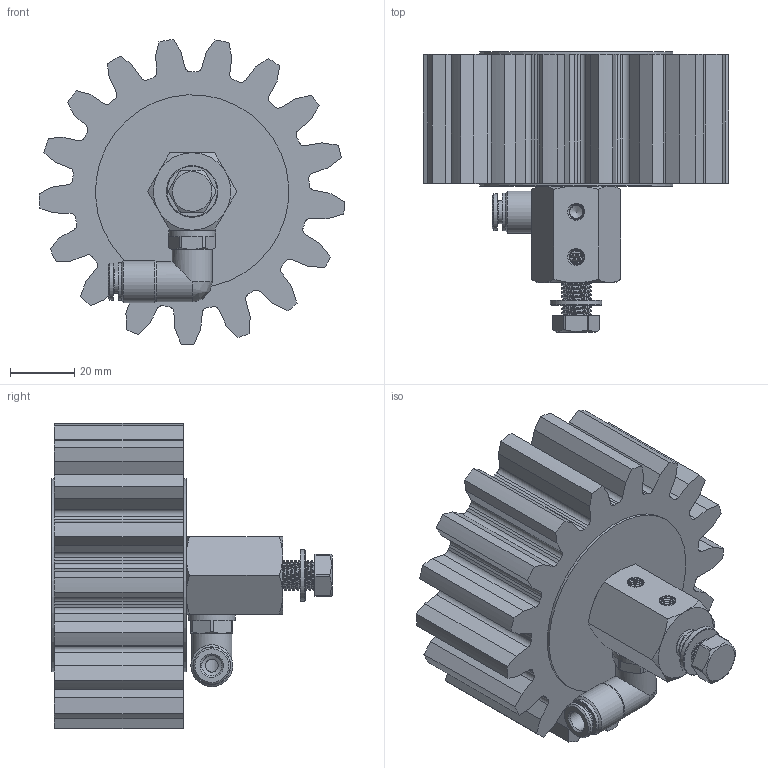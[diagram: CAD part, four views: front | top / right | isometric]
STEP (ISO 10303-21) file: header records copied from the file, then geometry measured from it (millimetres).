
FILE_DESCRIPTION (( 'STEP AP214' ), '1' );
FILE_NAME ('012_13_05_40_17BZ.STEP', '2026-04-08T11:19:36', ( '' ), ( '' ), 'SwSTEP 2.0', 'SolidWorks 2022', '' );
FILE_SCHEMA (( 'AUTOMOTIVE_DESIGN' ));
Length unit declared in the file: millimetre
Products named in the file (13): OR 7.2X1.9_1; RH202242; 12012_06_01_Scheibe-CRS-VA_60.SLDASM; Scheibe_hinten_winklige Achse_groß; DR6-C_HDX_25.07.16_1; 012_06_Senkschraube; U_Scheibe_8,4; RIVOLUZIONE_0_2; 012_13b_02_winklige_Achse_M10_1; Schmierzahnrad_05_40_17G; H202242_HDS022_6_M10X1_08.05.17(1); Schraube_M8_20; 012_13_05_40_17BZ
Assembly tree (12 placements, depth 3):
  012_13_05_40_17BZ
    012_13b_02_winklige_Achse_M10_1
    Schraube_M8_20
    U_Scheibe_8,4
    H202242_HDS022_6_M10X1_08.05.17(1)
      OR 7.2X1.9_1
      RH202242
      DR6-C_HDX_25.07.16_1
      RIVOLUZIONE_0_2
    12012_06_01_Scheibe-CRS-VA_60.SLDASM
    Scheibe_hinten_winklige Achse_groß
    012_06_Senkschraube
    Schmierzahnrad_05_40_17G
Bounding box: 94.89 x 86.9 x 94.64 mm (x, y, z)
Volume: 249288.8 mm3; surface area: 55425.1 mm2
Topology: 11 solids, 11 shells, 729 faces, 1985 edges, 1315 vertices
Faces by surface type: plane 379, bspline 184, cylinder 106, cone 57, torus 3
Full cylindrical faces by diameter (mm): 4 x3, 5.5 x1, 6 x1, 6.2 x1, 6.3 x1, 6.5 x1, 7.2 x1, 8.4 x1, 8.5 x1, 9 x10, 9.9 x1, 10 x2, 10.1 x2, 10.3 x1, 11.5 x1, 11.7 x1, 12.5 x2, 13 x1, 14.5 x1, 16 x1, 60 x2
Entity records: 48200 total; most frequent: CARTESIAN_POINT 30642, ORIENTED_EDGE 3668, DIRECTION 2683, EDGE_CURVE 1834, VERTEX_POINT 1249, LINE 1079, VECTOR 1079, EDGE_LOOP 851
